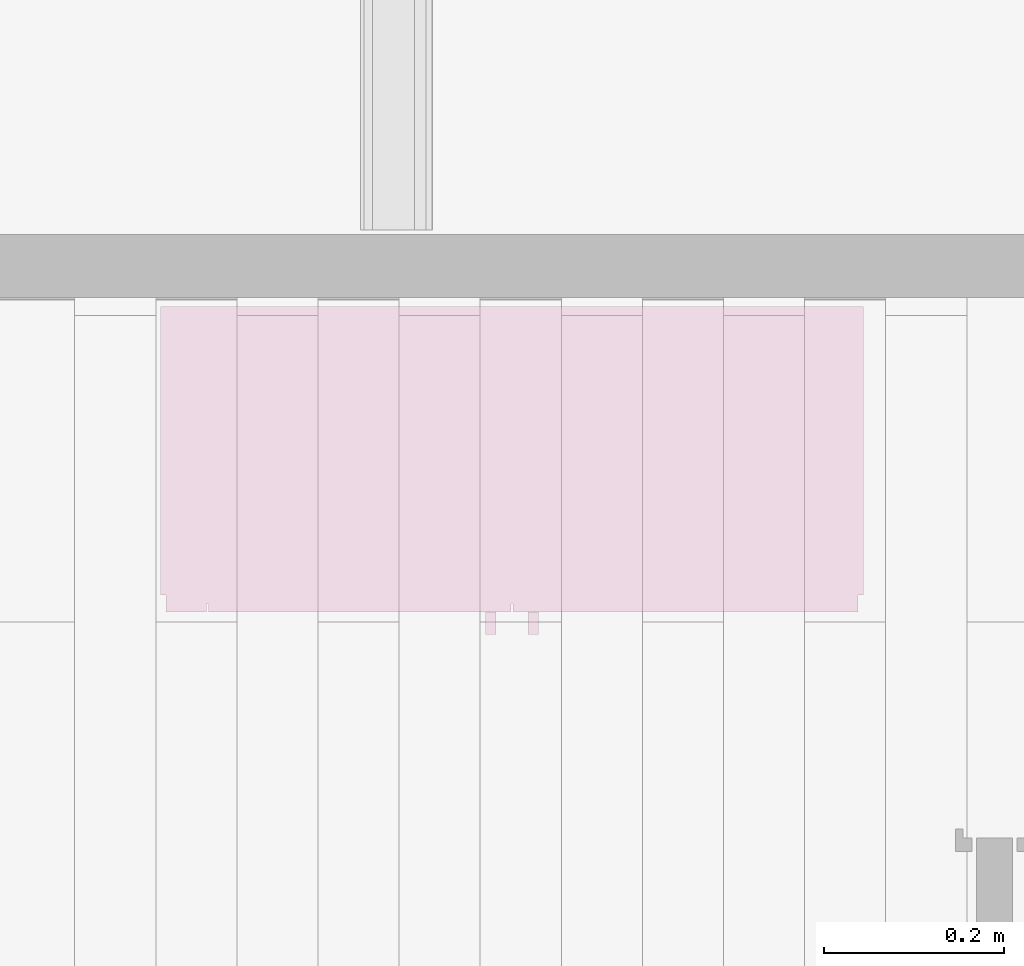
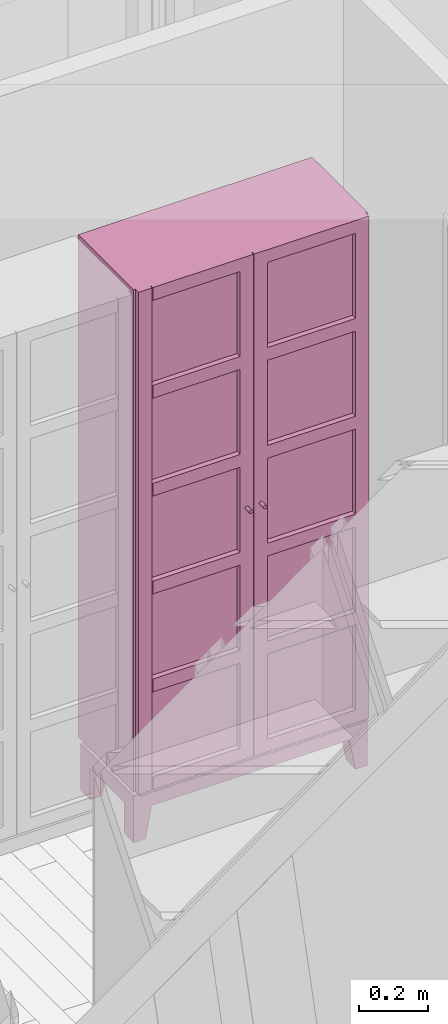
# One storey, part 60 of 61: 1 furnishing.
"""IFC2X3 building model written with IfcOpenShell, lengths in metres."""

from ifc_helpers import new_model, entity, si_unit, converted_unit, derived_unit, direction, frame, frame_2d, origin, origin_2d_with_axis, place, context, subcontext, project, spatial, polyline, rectangle, circle, outline, extrude, source, transform, mapped, material, material_list, type_object, type_shapes, element, save


model = new_model("IFC2X3")

# Units and contexts
model_context = context("Model", 3, precision=1e-05, world=origin(), true_north=direction((6.12303176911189e-17, 1.0)))
body_context = subcontext(model_context, "Body", "Model", "MODEL_VIEW")
ifc_project = project(units=[si_unit("LENGTHUNIT", "METRE"), si_unit("AREAUNIT", "SQUARE_METRE"), si_unit("VOLUMEUNIT", "CUBIC_METRE"), converted_unit("PLANEANGLEUNIT", "DEGREE", entity("IfcRatioMeasure", 0.0174532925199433), si_unit("PLANEANGLEUNIT", "RADIAN"), dimensions=[0, 0, 0, 0, 0, 0, 0]), si_unit("MASSUNIT", "GRAM", prefix="KILO"), derived_unit("MASSDENSITYUNIT", [(si_unit("MASSUNIT", "GRAM", prefix="KILO"), 1), (si_unit("LENGTHUNIT", "METRE"), -3)]), si_unit("TIMEUNIT", "SECOND"), si_unit("FREQUENCYUNIT", "HERTZ"), si_unit("THERMODYNAMICTEMPERATUREUNIT", "DEGREE_CELSIUS"), derived_unit("THERMALTRANSMITTANCEUNIT", [(si_unit("MASSUNIT", "GRAM", prefix="KILO"), 1), (si_unit("THERMODYNAMICTEMPERATUREUNIT", "KELVIN"), -1), (si_unit("TIMEUNIT", "SECOND"), -3)]), derived_unit("VOLUMETRICFLOWRATEUNIT", [(si_unit("LENGTHUNIT", "METRE"), 3), (si_unit("TIMEUNIT", "SECOND"), -1)]), si_unit("ELECTRICCURRENTUNIT", "AMPERE"), si_unit("ELECTRICVOLTAGEUNIT", "VOLT"), si_unit("POWERUNIT", "WATT"), si_unit("FORCEUNIT", "NEWTON", prefix="KILO"), si_unit("ILLUMINANCEUNIT", "LUX"), si_unit("LUMINOUSFLUXUNIT", "LUMEN"), si_unit("LUMINOUSINTENSITYUNIT", "CANDELA"), derived_unit("USERDEFINED", [(si_unit("MASSUNIT", "GRAM", prefix="KILO"), -1), (si_unit("LENGTHUNIT", "METRE"), -2), (si_unit("TIMEUNIT", "SECOND"), 3), (si_unit("LUMINOUSFLUXUNIT", "LUMEN"), 1)]), derived_unit("LINEARVELOCITYUNIT", [(si_unit("LENGTHUNIT", "METRE"), 1), (si_unit("TIMEUNIT", "SECOND"), -1)]), si_unit("PRESSUREUNIT", "PASCAL"), derived_unit("USERDEFINED", [(si_unit("LENGTHUNIT", "METRE"), -2), (si_unit("MASSUNIT", "GRAM", prefix="KILO"), 1), (si_unit("TIMEUNIT", "SECOND"), -2)])], contexts=[model_context])

# Site, building, storey
site_placement = place(None, origin())
site = spatial("IfcSite", under=ifc_project, at=site_placement, Name="Surface", CompositionType="ELEMENT")
building_placement = place(site_placement, origin())
building = spatial("IfcBuilding", under=site, at=building_placement, CompositionType="ELEMENT")
storey_placement = place(building_placement, frame((0.0, 0.0, 2.82)))
storey = spatial("IfcBuildingStorey", under=building, at=storey_placement, Name="ETAGE", CompositionType="ELEMENT", Elevation=2.82)

# Furnishing
ifc_material_1 = material(Name="Birch_horr")
ifc_material_2 = material(Name="Glass")
ifc_material_list_1 = material_list([ifc_material_1, ifc_material_2])
ifc_material_list_2 = material_list([ifc_material_1, ifc_material_2])
furniture_type = type_object("IfcFurnitureType", Name="Allegro 7096", material=ifc_material_list_2)
shared_shape = source(origin(), body_context, "Body", "SweptSolid", [
    extrude(rectangle(XDim=0.310000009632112, YDim=0.677999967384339, at=frame_2d((0.0, 2.77555756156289e-17), x_axis=(1.0, 0.0))), frame((0.0, -0.00500000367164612, 1.55400005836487), z_axis=(0.0, 0.0, 1.0), x_axis=(0.0, -1.0, 0.0)), (0.0, 0.0, 1.0), 0.0190000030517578),
    extrude(rectangle(XDim=0.310000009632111, YDim=0.677999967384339, at=frame_2d((0.0, 2.77555756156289e-17), x_axis=(1.0, 0.0))), frame((0.0, -0.00500000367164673, 1.20899996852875), z_axis=(0.0, 0.0, 1.0), x_axis=(0.0, -1.0, 0.0)), (0.0, 0.0, 1.0), 0.0190000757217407),
    extrude(rectangle(XDim=0.310000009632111, YDim=0.677999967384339, at=frame_2d((0.0, 2.77555756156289e-17), x_axis=(1.0, 0.0))), frame((0.0, -0.00500000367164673, 0.864000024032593), z_axis=(0.0, 0.0, 1.0), x_axis=(0.0, -1.0, 0.0)), (0.0, 0.0, 1.0), 0.0190000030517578),
    extrude(rectangle(XDim=0.310000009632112, YDim=0.677999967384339, at=frame_2d((0.0, 2.77555756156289e-17), x_axis=(1.0, 0.0))), frame((0.0, -0.00500000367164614, 0.519000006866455), z_axis=(0.0, 0.0, 1.0), x_axis=(0.0, -1.0, 0.0)), (0.0, 0.0, 1.0), 0.0190000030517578),
    extrude(outline(polyline([(-0.0320038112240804, -0.0780199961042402), (0.0279961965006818, -0.0780199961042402), (0.0279961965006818, -0.017920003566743), (0.00801522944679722, 0.0869799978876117), (-0.0320038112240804, 0.0869799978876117), (-0.0320038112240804, -0.0780199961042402)])), frame((-0.357996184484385, -0.146000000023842, 0.0869799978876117), z_axis=(0.0, 1.0, 0.0), x_axis=(1.0, 0.0, 0.0)), (0.0, 0.0, 1.0), 0.0550000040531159),
    extrude(outline(polyline([(-0.0780199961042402, -0.0320038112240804), (0.0869799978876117, -0.0320038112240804), (0.0869799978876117, 0.00801522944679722), (-0.017920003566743, 0.0279961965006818), (-0.0780199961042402, 0.0279961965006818), (-0.0780199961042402, -0.0320038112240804)])), frame((0.357996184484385, -0.146000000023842, 0.0869799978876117), z_axis=(0.0, 1.0, 0.0), x_axis=(0.0, 0.0, -1.0)), (0.0, 0.0, 1.0), 0.0550000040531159),
    extrude(outline(polyline([(-0.0320038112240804, -0.0780199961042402), (0.0279961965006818, -0.0780199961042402), (0.0279961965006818, -0.017920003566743), (0.00801522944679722, 0.0869799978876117), (-0.0320038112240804, 0.0869799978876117), (-0.0320038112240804, -0.0780199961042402)])), frame((-0.357996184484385, 0.105000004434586, 0.0869799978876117), z_axis=(0.0, 1.0, 0.0), x_axis=(1.0, 0.0, 0.0)), (0.0, 0.0, 1.0), 0.0550000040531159),
    extrude(outline(polyline([(-0.0780199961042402, -0.0320038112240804), (0.0869799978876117, -0.0320038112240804), (0.0869799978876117, 0.00801522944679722), (-0.017920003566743, 0.0279961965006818), (-0.0780199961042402, 0.0279961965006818), (-0.0780199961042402, -0.0320038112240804)])), frame((0.357996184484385, 0.105000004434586, 0.0869799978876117), z_axis=(0.0, 1.0, 0.0), x_axis=(0.0, 0.0, -1.0)), (0.0, 0.0, 1.0), 0.0550000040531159),
    extrude(rectangle(XDim=0.0299999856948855, YDim=0.196000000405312, at=origin_2d_with_axis()), frame((0.375000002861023, 0.00700000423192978, 0.109999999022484)), (0.0, 0.0, 1.0), 0.054999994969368),
    extrude(rectangle(XDim=0.196000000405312, YDim=0.0299999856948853, at=origin_2d_with_axis()), frame((-0.375000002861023, 0.00700000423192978, 0.109999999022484), z_axis=(0.0, 0.0, 1.0), x_axis=(0.0, 1.0, 0.0)), (0.0, 0.0, 1.0), 0.054999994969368),
    extrude(rectangle(XDim=0.03000001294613, YDim=0.659999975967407, at=origin_2d_with_axis()), frame((0.0, 0.145000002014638, 0.109999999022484), z_axis=(0.0, 0.0, 1.0), x_axis=(0.0, 1.0, 0.0)), (0.0, 0.0, 1.0), 0.054999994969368),
    extrude(rectangle(XDim=0.0299999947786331, YDim=0.659999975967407, at=origin_2d_with_axis()), frame((0.0, -0.125999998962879, 0.109999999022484), z_axis=(0.0, 0.0, 1.0), x_axis=(0.0, 1.0, 0.0)), (0.0, 0.0, 1.0), 0.054999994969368),
    extrude(rectangle(XDim=0.679999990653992, YDim=0.000999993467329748, at=frame_2d((0.0, 1.69135538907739e-17), x_axis=(1.0, 0.0))), frame((0.0, 0.160500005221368, 0.224000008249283), z_axis=(0.0, 0.0, 1.0), x_axis=(-1.0, 0.0, 0.0)), (0.0, 0.0, 1.0), 1.68359997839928),
    extrude(rectangle(XDim=0.320000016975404, YDim=0.741999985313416, at=origin_2d_with_axis()), frame((0.0, 0.0, 1.93100001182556), z_axis=(0.0, 0.0, 1.0), x_axis=(0.0, -1.0, 0.0)), (0.0, 0.0, 1.0), 0.00900003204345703),
    extrude(rectangle(XDim=0.320000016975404, YDim=0.741999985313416, at=origin_2d_with_axis()), frame((0.0, 0.0, 0.18000000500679), z_axis=(0.0, 0.0, 1.0), x_axis=(0.0, -1.0, 0.0)), (0.0, 0.0, 1.0), 0.0190000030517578),
    extrude(rectangle(XDim=0.0189999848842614, YDim=0.292999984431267, at=frame_2d((0.0, -1.38777878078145e-17), x_axis=(1.0, 0.0))), frame((0.190499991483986, 0.169500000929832, 0.18000000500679), z_axis=(0.0, 0.0, 1.0), x_axis=(0.0, 1.0, 0.0)), (0.0, 0.0, 1.0), 0.0449999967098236),
    extrude(rectangle(XDim=0.0189999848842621, YDim=0.292999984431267, at=frame_2d((-1.64798730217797e-17, -1.38777878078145e-17), x_axis=(1.0, 0.0))), frame((0.190499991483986, 0.169500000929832, 0.525000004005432), z_axis=(0.0, 0.0, 1.0), x_axis=(0.0, 1.0, 0.0)), (0.0, 0.0, 1.0), 0.0449999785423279),
    extrude(rectangle(XDim=0.0189999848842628, YDim=0.292999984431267, at=frame_2d((-1.64798730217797e-17, -1.38777878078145e-17), x_axis=(1.0, 0.0))), frame((0.190499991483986, 0.169500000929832, 0.87000002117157), z_axis=(0.0, 0.0, 1.0), x_axis=(0.0, 1.0, 0.0)), (0.0, 0.0, 1.0), 0.0450000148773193),
    extrude(rectangle(XDim=0.0189999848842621, YDim=0.292999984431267, at=frame_2d((-1.64798730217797e-17, -1.38777878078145e-17), x_axis=(1.0, 0.0))), frame((0.190499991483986, 0.169500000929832, 1.21499996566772), z_axis=(0.0, 0.0, 1.0), x_axis=(0.0, 1.0, 0.0)), (0.0, 0.0, 1.0), 0.0450000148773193),
    extrude(rectangle(XDim=0.0189999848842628, YDim=0.292999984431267, at=frame_2d((-1.64798730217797e-17, -1.38777878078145e-17), x_axis=(1.0, 0.0))), frame((0.190499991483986, 0.169500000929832, 1.55999998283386), z_axis=(0.0, 0.0, 1.0), x_axis=(0.0, 1.0, 0.0)), (0.0, 0.0, 1.0), 0.0450000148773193),
    extrude(rectangle(XDim=0.0189999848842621, YDim=0.292999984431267, at=frame_2d((0.0, -1.38777878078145e-17), x_axis=(1.0, 0.0))), frame((0.190499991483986, 0.169500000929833, 1.905), z_axis=(0.0, 0.0, 1.0), x_axis=(0.0, 1.0, 0.0)), (0.0, 0.0, 1.0), 0.0450000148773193),
    extrude(rectangle(XDim=0.0189999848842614, YDim=0.292999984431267, at=frame_2d((0.0, 1.38777878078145e-17), x_axis=(1.0, 0.0))), frame((-0.192499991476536, 0.169500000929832, 0.18000000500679), z_axis=(0.0, 0.0, 1.0), x_axis=(0.0, -1.0, 0.0)), (0.0, 0.0, 1.0), 0.0449999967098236),
    extrude(rectangle(XDim=0.0189999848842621, YDim=0.292999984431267, at=frame_2d((0.0, 1.38777878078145e-17), x_axis=(1.0, 0.0))), frame((-0.192499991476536, 0.169500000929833, 1.905), z_axis=(0.0, 0.0, 1.0), x_axis=(0.0, -1.0, 0.0)), (0.0, 0.0, 1.0), 0.0450000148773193),
    extrude(rectangle(XDim=0.0189999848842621, YDim=0.292999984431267, at=frame_2d((1.64798730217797e-17, 1.38777878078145e-17), x_axis=(1.0, 0.0))), frame((-0.192499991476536, 0.169500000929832, 0.525000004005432), z_axis=(0.0, 0.0, 1.0), x_axis=(0.0, -1.0, 0.0)), (0.0, 0.0, 1.0), 0.0449999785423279),
    extrude(rectangle(XDim=0.0189999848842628, YDim=0.292999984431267, at=frame_2d((1.64798730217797e-17, 1.38777878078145e-17), x_axis=(1.0, 0.0))), frame((-0.192499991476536, 0.169500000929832, 0.87000002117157), z_axis=(0.0, 0.0, 1.0), x_axis=(0.0, -1.0, 0.0)), (0.0, 0.0, 1.0), 0.0450000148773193),
    extrude(rectangle(XDim=0.0189999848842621, YDim=0.292999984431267, at=frame_2d((1.64798730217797e-17, 1.38777878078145e-17), x_axis=(1.0, 0.0))), frame((-0.192499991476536, 0.169500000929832, 1.21499996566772), z_axis=(0.0, 0.0, 1.0), x_axis=(0.0, -1.0, 0.0)), (0.0, 0.0, 1.0), 0.0450000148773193),
    extrude(rectangle(XDim=0.0189999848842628, YDim=0.292999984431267, at=frame_2d((1.64798730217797e-17, 1.38777878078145e-17), x_axis=(1.0, 0.0))), frame((-0.192499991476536, 0.169500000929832, 1.55999998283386), z_axis=(0.0, 0.0, 1.0), x_axis=(0.0, -1.0, 0.0)), (0.0, 0.0, 1.0), 0.0450000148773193),
    extrude(rectangle(XDim=0.0189999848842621, YDim=0.0450000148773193, at=origin_2d_with_axis()), frame((0.361499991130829, 0.169500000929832, 0.18000000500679), z_axis=(0.0, 0.0, 1.0), x_axis=(0.0, -1.0, 0.0)), (0.0, 0.0, 1.0), 1.77000000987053),
    extrude(rectangle(XDim=0.0189999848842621, YDim=0.0449999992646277, at=origin_2d_with_axis()), frame((0.0234999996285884, 0.169500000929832, 0.18000000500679), z_axis=(0.0, 0.0, 1.0), x_axis=(0.0, 1.0, 0.0)), (0.0, 0.0, 1.0), 1.77000000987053),
    extrude(rectangle(XDim=0.0450000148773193, YDim=0.0189999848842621, at=origin_2d_with_axis()), frame((-0.361499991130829, 0.169500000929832, 0.18000000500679), z_axis=(0.0, 0.0, 1.0), x_axis=(-1.0, 0.0, 0.0)), (0.0, 0.0, 1.0), 1.77000000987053),
    extrude(rectangle(XDim=0.0189999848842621, YDim=0.0449999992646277, at=origin_2d_with_axis()), frame((-0.0234999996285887, 0.169500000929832, 0.18000000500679), z_axis=(0.0, 0.0, 1.0), x_axis=(0.0, 1.0, 0.0)), (0.0, 0.0, 1.0), 1.77000000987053),
    extrude(circle(Radius=0.006, at=origin_2d_with_axis()), frame((0.0235209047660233, 0.178999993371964, 1.06501550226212), z_axis=(0.0, 1.0, 0.0), x_axis=(-1.0, 0.0, 0.0)), (0.0, 0.0, 1.0), 0.0250000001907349),
    extrude(circle(Radius=0.006, at=origin_2d_with_axis()), frame((-0.0235209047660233, 0.178999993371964, 1.06501550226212), z_axis=(0.0, 1.0, 0.0), x_axis=(1.0, 0.0, 0.0)), (0.0, 0.0, 1.0), 0.0250000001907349),
    extrude(rectangle(XDim=0.00500000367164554, YDim=0.741999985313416, at=frame_2d((3.38271077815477e-17, 0.0), x_axis=(1.0, 0.0))), frame((0.0, -0.157500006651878, 0.189999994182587), z_axis=(0.0, 0.0, 1.0), x_axis=(0.0, -1.0, 0.0)), (0.0, 0.0, 1.0), 1.75000004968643),
    extrude(rectangle(XDim=0.750000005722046, YDim=0.330000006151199, at=origin_2d_with_axis()), frame((0.0, 0.00499999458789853, 0.164999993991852), z_axis=(0.0, 0.0, 1.0), x_axis=(-1.0, 0.0, 0.0)), (0.0, 0.0, 1.0), 0.0150000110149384),
    extrude(rectangle(XDim=0.741999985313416, YDim=0.330000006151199, at=origin_2d_with_axis()), frame((0.0, 0.00499999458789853, 1.94000004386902), z_axis=(0.0, 0.0, 1.0), x_axis=(-1.0, 0.0, 0.0)), (0.0, 0.0, 1.0), 0.00999997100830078),
    extrude(rectangle(XDim=0.0190000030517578, YDim=0.320000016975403, at=origin_2d_with_axis()), frame((0.380499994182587, 0.0, 0.18000000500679)), (0.0, 0.0, 1.0), 1.77000000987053),
    extrude(rectangle(XDim=0.320000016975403, YDim=0.0190000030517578, at=origin_2d_with_axis()), frame((-0.380499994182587, 0.0, 0.18000000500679), z_axis=(0.0, 0.0, 1.0), x_axis=(0.0, 1.0, 0.0)), (0.0, 0.0, 1.0), 1.77000000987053),
])
type_shapes(furniture_type, [shared_shape])
furnishing_placement = place(storey_placement, frame((85.8264023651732, 86.4375239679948, 0.0), z_axis=(0.0, 0.0, 1.0), x_axis=(-1.0, 0.0, 0.0)))
element("IfcFurnishingElement", 1, at=furnishing_placement, inside=storey, type_object=furniture_type, material=ifc_material_list_1, Name="Allegro 7096:Allegro 7096", ObjectType="Allegro 7096:Allegro 7096", context=body_context, shape_type="MappedRepresentation", body=[
    mapped(shared_shape, transform((0.0, 0.0, 0.0), scale=1.0)),
])

save(model, "model.ifc")
